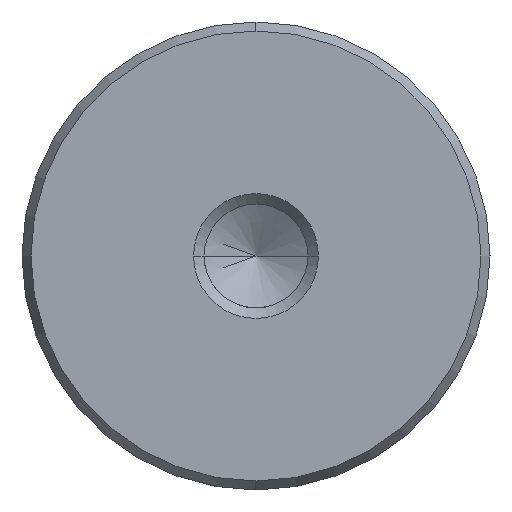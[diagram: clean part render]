
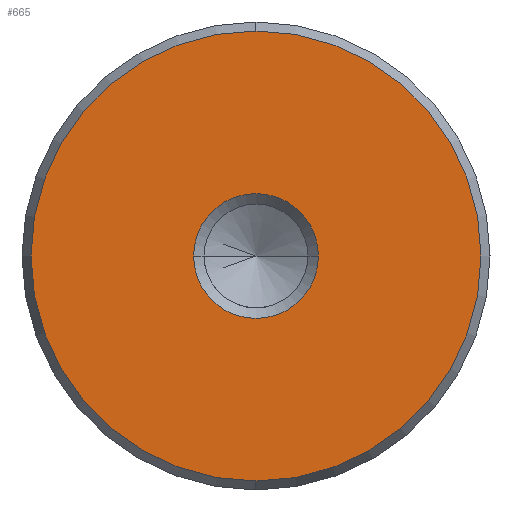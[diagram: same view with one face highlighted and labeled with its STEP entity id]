
A CAD part, left-side view. The second image highlights one B-rep face of the part: STEP entity #665.
In plain terms, the highlighted planar face has unit normal (-1, 0, 0).
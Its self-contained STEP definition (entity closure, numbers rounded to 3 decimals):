
#579=CARTESIAN_POINT('Vertex',(0.,0.,-14.423)) ;
#582=CARTESIAN_POINT('Axis2P3D Location',(0.,0.,0.)) ;
#586=CARTESIAN_POINT('Vertex',(0.,14.423,0.)) ;
#589=CARTESIAN_POINT('Axis2P3D Location',(0.,0.,0.)) ;
#593=CARTESIAN_POINT('Vertex',(0.,0.,14.423)) ;
#615=CARTESIAN_POINT('Axis2P3D Location',(0.,0.,0.)) ;
#619=CARTESIAN_POINT('Vertex',(0.,-14.423,0.)) ;
#622=CARTESIAN_POINT('Axis2P3D Location',(0.,0.,0.)) ;
#636=CARTESIAN_POINT('Axis2P3D Location',(0.,0.,0.)) ;
#647=CARTESIAN_POINT('Axis2P3D Location',(0.,0.,0.)) ;
#651=CARTESIAN_POINT('Vertex',(0.,4.,0.)) ;
#653=CARTESIAN_POINT('Vertex',(0.,-4.,0.)) ;
#656=CARTESIAN_POINT('Axis2P3D Location',(0.,0.,0.)) ;
#583=DIRECTION('Axis2P3D Direction',(1.,0.,-0.)) ;
#590=DIRECTION('Axis2P3D Direction',(1.,0.,-0.)) ;
#616=DIRECTION('Axis2P3D Direction',(1.,0.,-0.)) ;
#623=DIRECTION('Axis2P3D Direction',(1.,0.,-0.)) ;
#637=DIRECTION('Axis2P3D Direction',(1.,0.,-0.)) ;
#638=DIRECTION('Axis2P3D XDirection',(-0.,0.,-1.)) ;
#648=DIRECTION('Axis2P3D Direction',(1.,0.,-0.)) ;
#657=DIRECTION('Axis2P3D Direction',(1.,0.,-0.)) ;
#584=AXIS2_PLACEMENT_3D('Circle Axis2P3D',#582,#583,$) ;
#591=AXIS2_PLACEMENT_3D('Circle Axis2P3D',#589,#590,$) ;
#617=AXIS2_PLACEMENT_3D('Circle Axis2P3D',#615,#616,$) ;
#624=AXIS2_PLACEMENT_3D('Circle Axis2P3D',#622,#623,$) ;
#639=AXIS2_PLACEMENT_3D('Plane Axis2P3D',#636,#637,#638) ;
#649=AXIS2_PLACEMENT_3D('Circle Axis2P3D',#647,#648,$) ;
#658=AXIS2_PLACEMENT_3D('Circle Axis2P3D',#656,#657,$) ;
#642=ORIENTED_EDGE('',*,*,#588,.F.) ;
#643=ORIENTED_EDGE('',*,*,#626,.F.) ;
#644=ORIENTED_EDGE('',*,*,#621,.F.) ;
#645=ORIENTED_EDGE('',*,*,#595,.F.) ;
#662=ORIENTED_EDGE('',*,*,#655,.T.) ;
#663=ORIENTED_EDGE('',*,*,#660,.T.) ;
#664=FACE_BOUND('',#661,.T.) ;
#665=ADVANCED_FACE('720-30x125',(#646,#664),#640,.F.) ;
#585=CIRCLE('generated circle',#584,14.423) ;
#592=CIRCLE('generated circle',#591,14.423) ;
#618=CIRCLE('generated circle',#617,14.423) ;
#625=CIRCLE('generated circle',#624,14.423) ;
#650=CIRCLE('generated circle',#649,4.) ;
#659=CIRCLE('generated circle',#658,4.) ;
#588=EDGE_CURVE('',#580,#587,#585,.T.) ;
#595=EDGE_CURVE('',#587,#594,#592,.T.) ;
#621=EDGE_CURVE('',#594,#620,#618,.T.) ;
#626=EDGE_CURVE('',#620,#580,#625,.T.) ;
#655=EDGE_CURVE('',#652,#654,#650,.T.) ;
#660=EDGE_CURVE('',#654,#652,#659,.T.) ;
#641=EDGE_LOOP('',(#642,#643,#644,#645)) ;
#661=EDGE_LOOP('',(#662,#663)) ;
#646=FACE_OUTER_BOUND('',#641,.T.) ;
#640=PLANE('Plane',#639) ;
#580=VERTEX_POINT('',#579) ;
#587=VERTEX_POINT('',#586) ;
#594=VERTEX_POINT('',#593) ;
#620=VERTEX_POINT('',#619) ;
#652=VERTEX_POINT('',#651) ;
#654=VERTEX_POINT('',#653) ;
